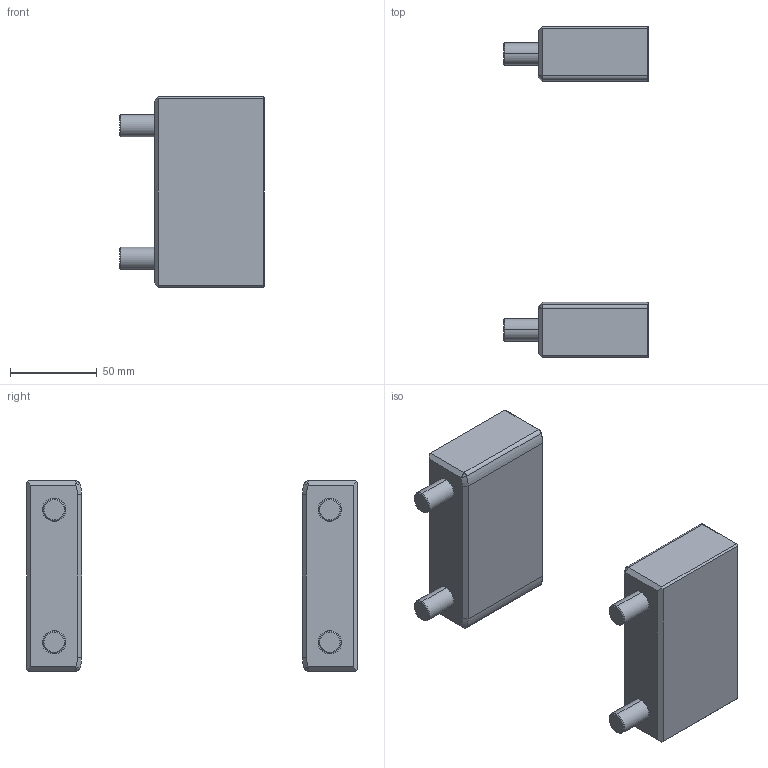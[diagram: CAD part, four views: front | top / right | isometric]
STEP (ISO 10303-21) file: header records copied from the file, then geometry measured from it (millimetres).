
FILE_DESCRIPTION (( 'STEP AP203' ), '1' );
FILE_NAME ('BLG250L4.3.step', '2016-11-21T18:57:44', ( '' ), ( '' ), 'SwSTEP 2.0', 'SolidWorks 2014', '' );
FILE_SCHEMA (( 'CONFIG_CONTROL_DESIGN' ));
Length unit declared in the file: inch
Products named in the file (3): BLG250L4.3; 12-13x275 SHCS
Assembly tree (6 placements, depth 2):
  BLG250L4.3
    BLG250L4.3  x2
    12-13x275 SHCS  x4
Bounding box: 83.31 x 190.54 x 109.47 mm (x, y, z)
Volume: 440241.6 mm3; surface area: 75980.4 mm2
Topology: 6 solids, 6 shells, 172 faces, 376 edges, 224 vertices
Faces by surface type: plane 92, cylinder 48, torus 16, cone 16
Entity records: 2129 total; most frequent: DIRECTION 324, CARTESIAN_POINT 301, ORIENTED_EDGE 272, EDGE_CURVE 136, AXIS2_PLACEMENT_3D 121, VECTOR 82, LINE 82, VERTEX_POINT 82
